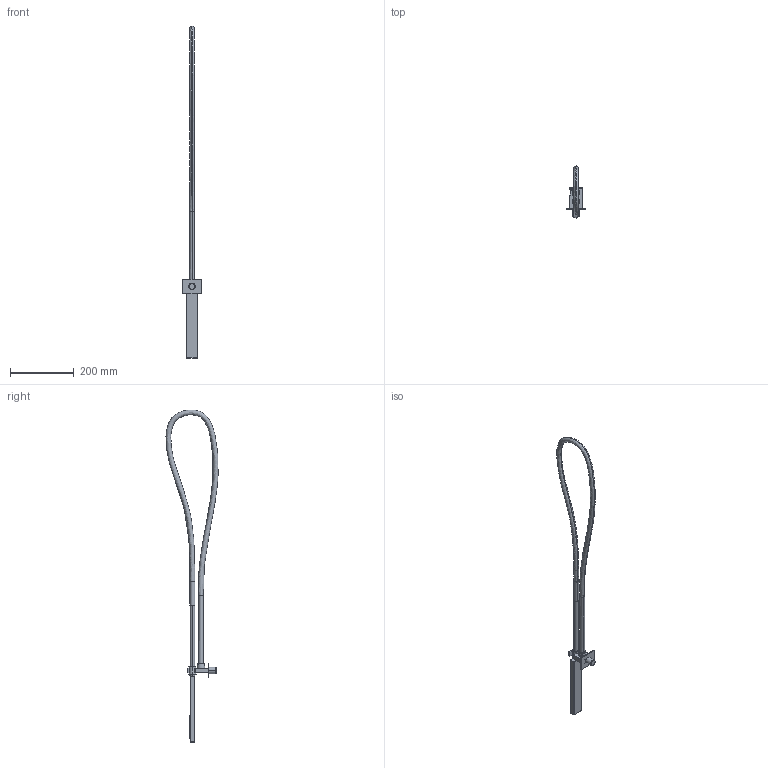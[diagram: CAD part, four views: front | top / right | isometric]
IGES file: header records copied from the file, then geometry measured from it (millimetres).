
Start section:  PTC IGES file: 53400.igs
Global section: file name: 53400.igs; native system: Creo Parametric by PTC Inc.; preprocessor: 2022014; author: carloff; organization: Unknown; date: 20241011.112022; units: millimetre
Bounding box: 60 x 163.72 x 1043.38 mm (x, y, z)
Surface area: 118280.1 mm2 (no closed solid volume)
Topology: 0 solids, 0 shells, 449 faces, 1844 edges, 1844 vertices
Faces by surface type: revolution 366, bspline 83
